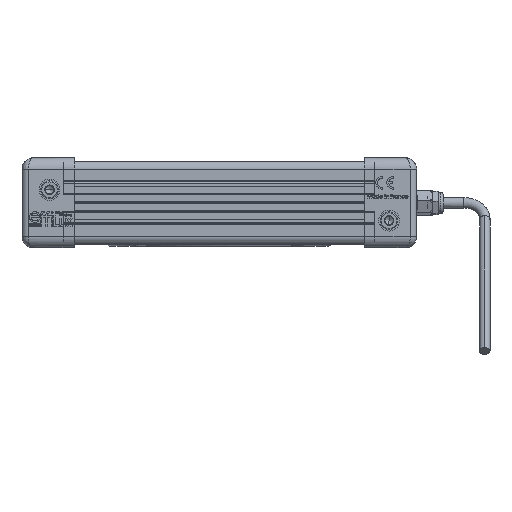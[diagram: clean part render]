
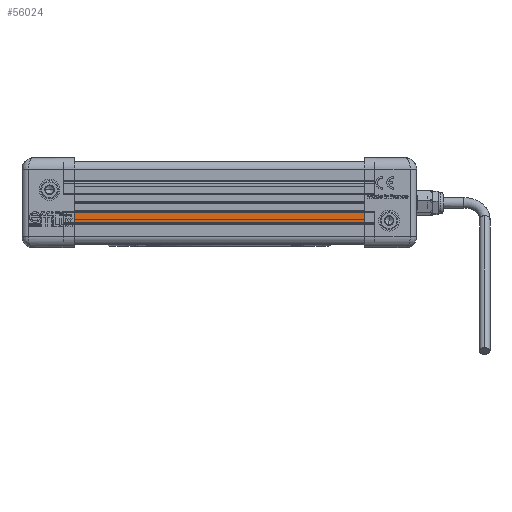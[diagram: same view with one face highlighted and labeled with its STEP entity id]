
A CAD part, front view. The second image highlights one B-rep face of the part: STEP entity #56024.
In plain terms, the highlighted planar face has unit normal (0, -1, 0) as drawn and (-1, 0, 0) by its records, which use the part's own axes.
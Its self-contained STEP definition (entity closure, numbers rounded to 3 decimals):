
#384 = EDGE_CURVE ( 'NONE', #10805, #72699, #22101, .T. ) ;
#1720 = DIRECTION ( 'NONE',  ( 0., 0., -1. ) ) ;
#6925 = ORIENTED_EDGE ( 'NONE', *, *, #384, .T. ) ;
#10805 = VERTEX_POINT ( 'NONE', #60577 ) ;
#12904 = CARTESIAN_POINT ( 'NONE',  ( -9., -4.5, 149. ) ) ;
#13392 = EDGE_CURVE ( 'NONE', #47950, #72699, #44023, .T. ) ;
#13536 = AXIS2_PLACEMENT_3D ( 'NONE', #38483, #31784, #66440 ) ;
#16018 = DIRECTION ( 'NONE',  ( 0., 0., -1. ) ) ;
#18789 = CARTESIAN_POINT ( 'NONE',  ( -9., -4.5, 149. ) ) ;
#20216 = FACE_OUTER_BOUND ( 'NONE', #57344, .T. ) ;
#20908 = CARTESIAN_POINT ( 'NONE',  ( -9., -4.5, 149. ) ) ;
#21408 = CARTESIAN_POINT ( 'NONE',  ( -9., -9.5, 149. ) ) ;
#22101 = LINE ( 'NONE', #28829, #40429 ) ;
#22256 = CARTESIAN_POINT ( 'NONE',  ( -9., -9.5, 0. ) ) ;
#28829 = CARTESIAN_POINT ( 'NONE',  ( -9., -4.5, 0. ) ) ;
#29197 = DIRECTION ( 'NONE',  ( 0., -1., 0. ) ) ;
#30460 = ORIENTED_EDGE ( 'NONE', *, *, #13392, .F. ) ;
#31784 = DIRECTION ( 'NONE',  ( 1., 0., 0. ) ) ;
#32569 = VERTEX_POINT ( 'NONE', #18789 ) ;
#38483 = CARTESIAN_POINT ( 'NONE',  ( -9., -4.5, 149. ) ) ;
#38751 = VECTOR ( 'NONE', #1720, 1000. ) ;
#40429 = VECTOR ( 'NONE', #29197, 1000. ) ;
#41270 = LINE ( 'NONE', #12904, #38751 ) ;
#43674 = DIRECTION ( 'NONE',  ( 0., -1., 0. ) ) ;
#43728 = PLANE ( 'NONE',  #13536 ) ;
#44023 = LINE ( 'NONE', #66369, #70797 ) ;
#47950 = VERTEX_POINT ( 'NONE', #21408 ) ;
#56024 = ADVANCED_FACE ( 'NONE', ( #20216 ), #43728, .F. ) ;
#56664 = LINE ( 'NONE', #20908, #65112 ) ;
#57344 = EDGE_LOOP ( 'NONE', ( #6925, #30460, #57817, #73469 ) ) ;
#57817 = ORIENTED_EDGE ( 'NONE', *, *, #58959, .F. ) ;
#58959 = EDGE_CURVE ( 'NONE', #32569, #47950, #56664, .T. ) ;
#60577 = CARTESIAN_POINT ( 'NONE',  ( -9., -4.5, 0. ) ) ;
#65112 = VECTOR ( 'NONE', #43674, 1000. ) ;
#66369 = CARTESIAN_POINT ( 'NONE',  ( -9., -9.5, 149. ) ) ;
#66440 = DIRECTION ( 'NONE',  ( 0., 1., 0. ) ) ;
#70797 = VECTOR ( 'NONE', #16018, 1000. ) ;
#72699 = VERTEX_POINT ( 'NONE', #22256 ) ;
#72802 = EDGE_CURVE ( 'NONE', #32569, #10805, #41270, .T. ) ;
#73469 = ORIENTED_EDGE ( 'NONE', *, *, #72802, .T. ) ;
